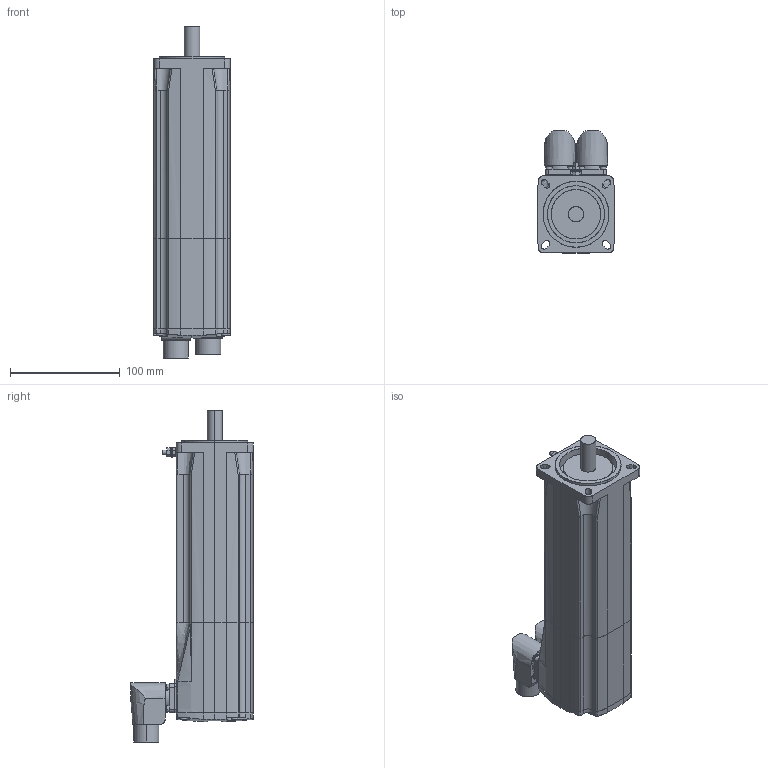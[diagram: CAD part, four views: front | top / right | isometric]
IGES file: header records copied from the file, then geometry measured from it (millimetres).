
Start section: SolidWorks IGES file using analytic representation for surfaces
Global section: file name: C:\PDM\SW-SAP\AA-IGES\SH30703x0xF2100.IGS; native system: SolidWorks 2010; preprocessor: SolidWorks 2010; author: SESA21951; date: 131129.090129; units: millimetre
Bounding box: 70 x 111.4 x 302.45 mm (x, y, z)
Surface area: 114050.2 mm2 (no closed solid volume)
Topology: 0 solids, 0 shells, 460 faces, 6553 edges, 6548 vertices
Faces by surface type: bspline 236, revolution 224
